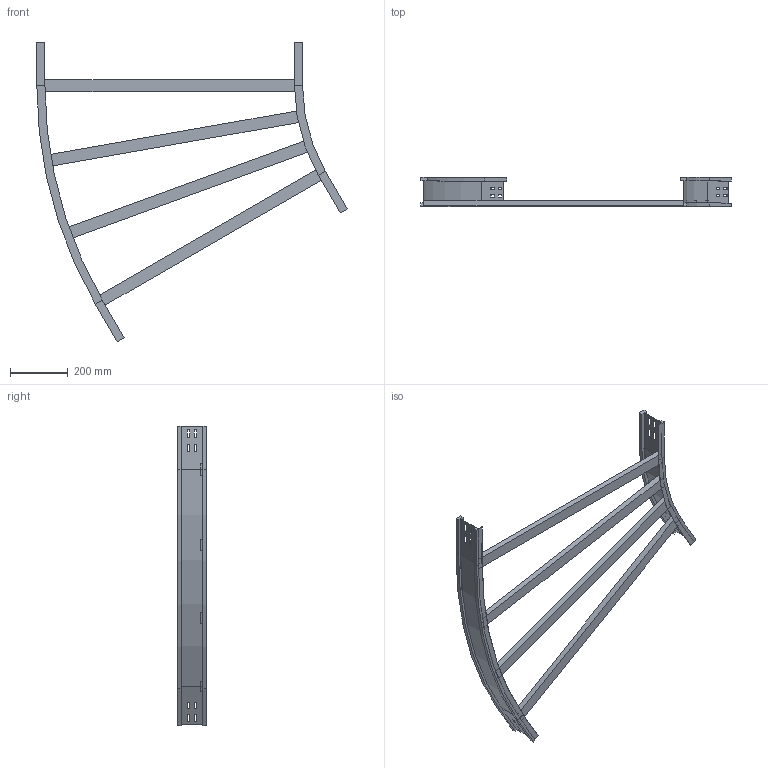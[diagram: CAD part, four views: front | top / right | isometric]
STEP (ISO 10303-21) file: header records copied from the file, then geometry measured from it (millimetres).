
FILE_DESCRIPTION (( 'STEP AP214' ), '1' );
FILE_NAME ('12S6D900.step', '2025-02-21T16:01:44', ( '' ), ( '' ), 'SwSTEP 2.0', 'SolidWorks 2023', '' );
FILE_SCHEMA (( 'AUTOMOTIVE_DESIGN' ));
Length unit declared in the file: millimetre
Products named in the file (4): TRAVERSINO_900; 12S6D900; LONGH.INTERNO30°_H100_R600; LONGH.ESTERNO 30°_H100_R600+900
Assembly tree (6 placements, depth 2):
  12S6D900
    LONGH.INTERNO30°_H100_R600
    LONGH.ESTERNO 30°_H100_R600+900
    TRAVERSINO_900  x4
Bounding box: 1072.18 x 100 x 1034.4 mm (x, y, z)
Volume: 3802070.3 mm3; surface area: 941949.6 mm2
Topology: 6 solids, 6 shells, 164 faces, 408 edges, 256 vertices
Faces by surface type: plane 152, cylinder 12
Entity records: 4485 total; most frequent: CARTESIAN_POINT 759, ORIENTED_EDGE 744, DIRECTION 706, EDGE_CURVE 372, LINE 348, VECTOR 348, VERTEX_POINT 232, AXIS2_PLACEMENT_3D 179
